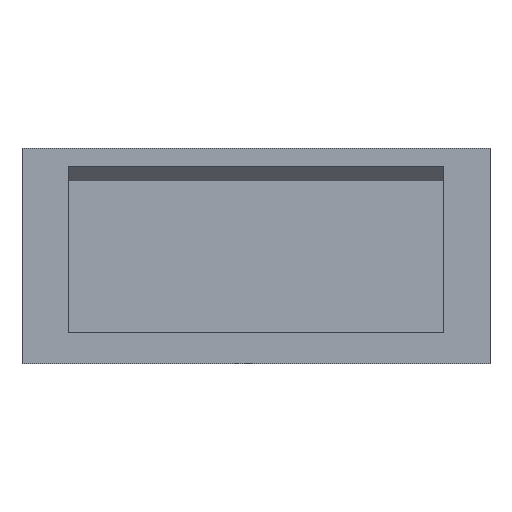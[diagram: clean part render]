
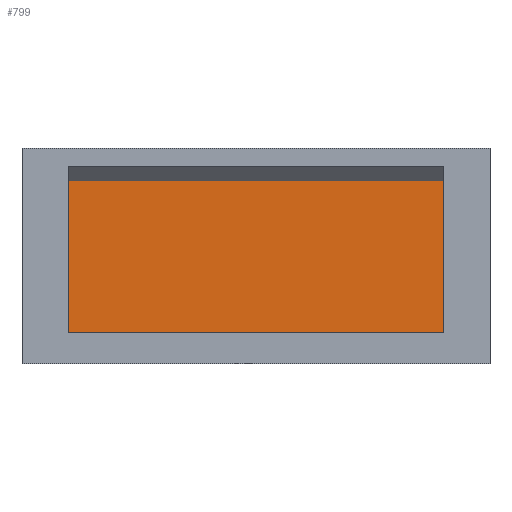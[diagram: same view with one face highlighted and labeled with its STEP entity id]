
A CAD part, front view. The second image highlights one B-rep face of the part: STEP entity #799.
In plain terms, the highlighted planar face has unit normal (0, -1, 0).
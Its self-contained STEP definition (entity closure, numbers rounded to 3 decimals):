
#234 = PLANE('',#235);
#235 = AXIS2_PLACEMENT_3D('',#236,#237,#238);
#236 = CARTESIAN_POINT('',(-40.,9.5,24.));
#237 = DIRECTION('',(0.,-0.707,-0.707));
#238 = DIRECTION('',(0.,-0.707,0.707));
#287 = PLANE('',#288);
#288 = AXIS2_PLACEMENT_3D('',#289,#290,#291);
#289 = CARTESIAN_POINT('',(0.,1.886,5.));
#290 = DIRECTION('',(0.,0.,1.));
#291 = DIRECTION('',(1.,0.,-0.));
#480 = VERTEX_POINT('',#481);
#481 = CARTESIAN_POINT('',(-32.,3.8,29.7));
#496 = CYLINDRICAL_SURFACE('',#497,0.15);
#497 = AXIS2_PLACEMENT_3D('',#498,#499,#500);
#498 = CARTESIAN_POINT('',(-32.,3.65,5.));
#499 = DIRECTION('',(-0.,0.,-1.));
#500 = DIRECTION('',(0.625,-0.781,-0.));
#513 = EDGE_CURVE('',#480,#514,#516,.T.);
#514 = VERTEX_POINT('',#515);
#515 = CARTESIAN_POINT('',(32.,3.8,29.7));
#516 = SURFACE_CURVE('',#517,(#521,#527),.PCURVE_S1.);
#517 = LINE('',#518,#519);
#518 = CARTESIAN_POINT('',(-4.,3.8,29.7));
#519 = VECTOR('',#520,1.);
#520 = DIRECTION('',(1.,0.,0.));
#521 = PCURVE('',#234,#522);
#522 = DEFINITIONAL_REPRESENTATION('',(#523),#526);
#523 = B_SPLINE_CURVE_WITH_KNOTS('',1,(#524,#525),.UNSPECIFIED.,.F.,.F.,
  (2,2),(-28.,36.),.PIECEWISE_BEZIER_KNOTS.);
#524 = CARTESIAN_POINT('',(8.061,-8.));
#525 = CARTESIAN_POINT('',(8.061,-72.));
#526 = ( GEOMETRIC_REPRESENTATION_CONTEXT(2) 
PARAMETRIC_REPRESENTATION_CONTEXT() REPRESENTATION_CONTEXT('2D SPACE',''
  ) );
#527 = PCURVE('',#528,#533);
#528 = PLANE('',#529);
#529 = AXIS2_PLACEMENT_3D('',#530,#531,#532);
#530 = CARTESIAN_POINT('',(32.,3.8,5.));
#531 = DIRECTION('',(0.,-1.,0.));
#532 = DIRECTION('',(-1.,0.,0.));
#533 = DEFINITIONAL_REPRESENTATION('',(#534),#537);
#534 = B_SPLINE_CURVE_WITH_KNOTS('',1,(#535,#536),.UNSPECIFIED.,.F.,.F.,
  (2,2),(-28.,36.),.PIECEWISE_BEZIER_KNOTS.);
#535 = CARTESIAN_POINT('',(64.,-24.7));
#536 = CARTESIAN_POINT('',(0.,-24.7));
#537 = ( GEOMETRIC_REPRESENTATION_CONTEXT(2) 
PARAMETRIC_REPRESENTATION_CONTEXT() REPRESENTATION_CONTEXT('2D SPACE',''
  ) );
#556 = CYLINDRICAL_SURFACE('',#557,0.15);
#557 = AXIS2_PLACEMENT_3D('',#558,#559,#560);
#558 = CARTESIAN_POINT('',(32.,3.65,5.));
#559 = DIRECTION('',(0.,0.,-1.));
#560 = DIRECTION('',(-1.,0.,0.));
#670 = VERTEX_POINT('',#671);
#671 = CARTESIAN_POINT('',(32.,3.8,5.));
#697 = EDGE_CURVE('',#670,#698,#700,.T.);
#698 = VERTEX_POINT('',#699);
#699 = CARTESIAN_POINT('',(-32.,3.8,5.));
#700 = SURFACE_CURVE('',#701,(#705,#712),.PCURVE_S1.);
#701 = LINE('',#702,#703);
#702 = CARTESIAN_POINT('',(32.,3.8,5.));
#703 = VECTOR('',#704,1.);
#704 = DIRECTION('',(-1.,0.,0.));
#705 = PCURVE('',#287,#706);
#706 = DEFINITIONAL_REPRESENTATION('',(#707),#711);
#707 = LINE('',#708,#709);
#708 = CARTESIAN_POINT('',(32.,1.914));
#709 = VECTOR('',#710,1.);
#710 = DIRECTION('',(-1.,0.));
#711 = ( GEOMETRIC_REPRESENTATION_CONTEXT(2) 
PARAMETRIC_REPRESENTATION_CONTEXT() REPRESENTATION_CONTEXT('2D SPACE',''
  ) );
#712 = PCURVE('',#528,#713);
#713 = DEFINITIONAL_REPRESENTATION('',(#714),#718);
#714 = LINE('',#715,#716);
#715 = CARTESIAN_POINT('',(0.,-0.));
#716 = VECTOR('',#717,1.);
#717 = DIRECTION('',(1.,0.));
#718 = ( GEOMETRIC_REPRESENTATION_CONTEXT(2) 
PARAMETRIC_REPRESENTATION_CONTEXT() REPRESENTATION_CONTEXT('2D SPACE',''
  ) );
#777 = EDGE_CURVE('',#670,#514,#778,.T.);
#778 = SURFACE_CURVE('',#779,(#783,#790),.PCURVE_S1.);
#779 = LINE('',#780,#781);
#780 = CARTESIAN_POINT('',(32.,3.8,5.));
#781 = VECTOR('',#782,1.);
#782 = DIRECTION('',(0.,0.,1.));
#783 = PCURVE('',#556,#784);
#784 = DEFINITIONAL_REPRESENTATION('',(#785),#789);
#785 = LINE('',#786,#787);
#786 = CARTESIAN_POINT('',(1.571,0.));
#787 = VECTOR('',#788,1.);
#788 = DIRECTION('',(0.,-1.));
#789 = ( GEOMETRIC_REPRESENTATION_CONTEXT(2) 
PARAMETRIC_REPRESENTATION_CONTEXT() REPRESENTATION_CONTEXT('2D SPACE',''
  ) );
#790 = PCURVE('',#528,#791);
#791 = DEFINITIONAL_REPRESENTATION('',(#792),#796);
#792 = LINE('',#793,#794);
#793 = CARTESIAN_POINT('',(0.,-0.));
#794 = VECTOR('',#795,1.);
#795 = DIRECTION('',(0.,-1.));
#796 = ( GEOMETRIC_REPRESENTATION_CONTEXT(2) 
PARAMETRIC_REPRESENTATION_CONTEXT() REPRESENTATION_CONTEXT('2D SPACE',''
  ) );
#799 = ADVANCED_FACE('',(#800),#528,.T.);
#800 = FACE_BOUND('',#801,.T.);
#801 = EDGE_LOOP('',(#802,#803,#804,#805));
#802 = ORIENTED_EDGE('',*,*,#697,.F.);
#803 = ORIENTED_EDGE('',*,*,#777,.T.);
#804 = ORIENTED_EDGE('',*,*,#513,.F.);
#805 = ORIENTED_EDGE('',*,*,#806,.F.);
#806 = EDGE_CURVE('',#698,#480,#807,.T.);
#807 = SURFACE_CURVE('',#808,(#812,#819),.PCURVE_S1.);
#808 = LINE('',#809,#810);
#809 = CARTESIAN_POINT('',(-32.,3.8,5.));
#810 = VECTOR('',#811,1.);
#811 = DIRECTION('',(0.,0.,1.));
#812 = PCURVE('',#528,#813);
#813 = DEFINITIONAL_REPRESENTATION('',(#814),#818);
#814 = LINE('',#815,#816);
#815 = CARTESIAN_POINT('',(64.,0.));
#816 = VECTOR('',#817,1.);
#817 = DIRECTION('',(0.,-1.));
#818 = ( GEOMETRIC_REPRESENTATION_CONTEXT(2) 
PARAMETRIC_REPRESENTATION_CONTEXT() REPRESENTATION_CONTEXT('2D SPACE',''
  ) );
#819 = PCURVE('',#496,#820);
#820 = DEFINITIONAL_REPRESENTATION('',(#821),#825);
#821 = LINE('',#822,#823);
#822 = CARTESIAN_POINT('',(3.816,0.));
#823 = VECTOR('',#824,1.);
#824 = DIRECTION('',(0.,-1.));
#825 = ( GEOMETRIC_REPRESENTATION_CONTEXT(2) 
PARAMETRIC_REPRESENTATION_CONTEXT() REPRESENTATION_CONTEXT('2D SPACE',''
  ) );
